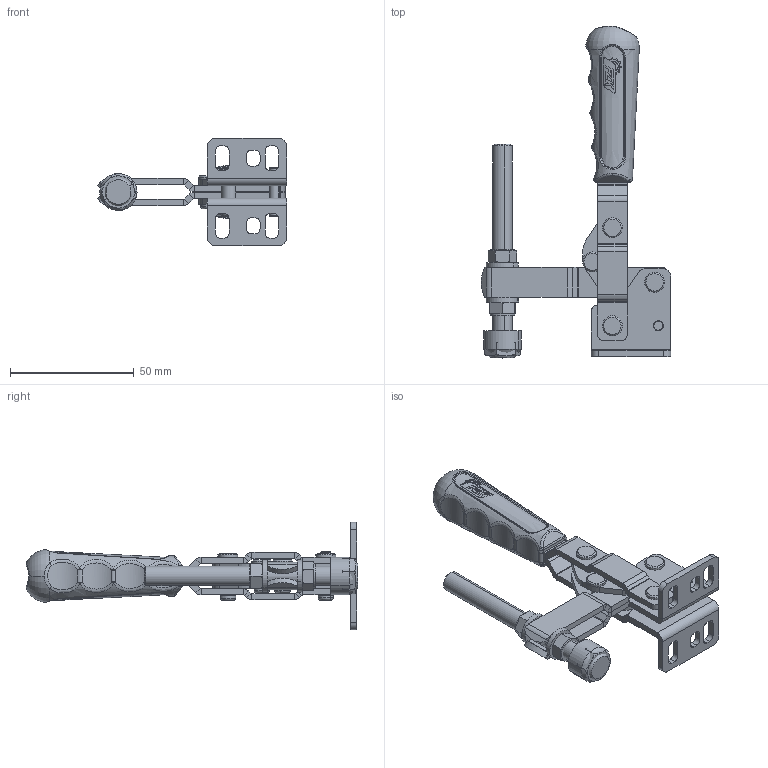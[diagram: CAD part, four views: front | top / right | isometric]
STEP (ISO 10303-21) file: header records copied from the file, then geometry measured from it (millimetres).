
FILE_DESCRIPTION (( 'STEP AP214' ), '1' );
FILE_NAME ('301_BLU.STEP', '2024-09-09T16:36:22', ( '' ), ( '' ), 'SwSTEP 2.0', 'SolidWorks 2023', '' );
FILE_SCHEMA (( 'AUTOMOTIVE_DESIGN' ));
Length unit declared in the file: millimetre
Products named in the file (17): FZK_301_BLU_08_00; hex bolt gradeb_din; FZK_301_BLU_04_00; FZK_301_BLU_06_00; FZK_301_BLU_02_00; FZK_301_BLU_05_00; DIN 125 M6 PUL; FZK_301_BLU_07_00; FZK_301_BLU_01_00; FZK_301_BLU_09_00; M6 PABUC; 301_BLU; Parallel Pin ISO 8734 - 4 x 20 - A - St_Parallel Pin ISO 8734 - 4 x 20 - A - St; FZK_301_BLU_03_00; 301 BLU DALDIRMA; hex nut style 1 gradeab_din_Hexagon Nut ISO 4032 - M6 - W - N; FZK_301_BLU_02A_00
Assembly tree (24 placements, depth 3):
  301_BLU
    FZK_301_BLU_01_00
    FZK_301_BLU_05_00
    FZK_301_BLU_04_00  x2
    FZK_301_BLU_03_00  x2
    FZK_301_BLU_02_00
      FZK_301_BLU_02A_00  x2
    FZK_301_BLU_06_00  x3
    FZK_301_BLU_07_00
    FZK_301_BLU_08_00  x2
    FZK_301_BLU_09_00
    hex bolt gradeb_din
    DIN 125 M6 PUL  x2
    301 BLU DALDIRMA
    M6 PABUC
    hex nut style 1 gradeab_din_Hexagon Nut ISO 4032 - M6 - W - N  x2
    Parallel Pin ISO 8734 - 4 x 20 - A - St_Parallel Pin ISO 8734 - 4 x 20 - A - St
Bounding box: 76.39 x 133.87 x 43.26 mm (x, y, z)
Volume: 40842 mm3; surface area: 33042.4 mm2
Topology: 23 solids, 23 shells, 914 faces, 2140 edges, 1288 vertices
Faces by surface type: cylinder 278, plane 275, bspline 209, cone 86, torus 46, sphere 20
Entity records: 32597 total; most frequent: CARTESIAN_POINT 17893, ORIENTED_EDGE 3218, DIRECTION 2477, EDGE_CURVE 1609, VERTEX_POINT 991, AXIS2_PLACEMENT_3D 988, EDGE_LOOP 738, ADVANCED_FACE 670
